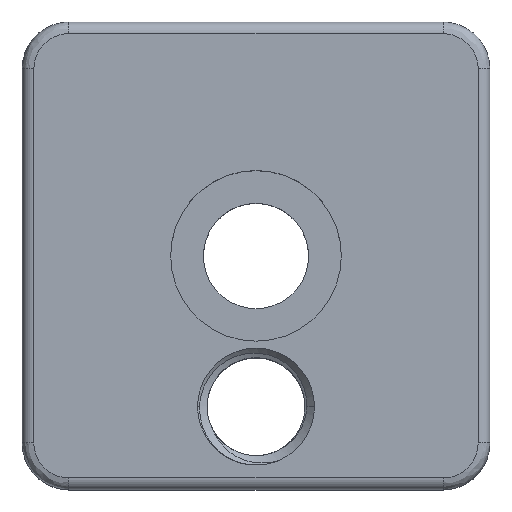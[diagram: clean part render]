
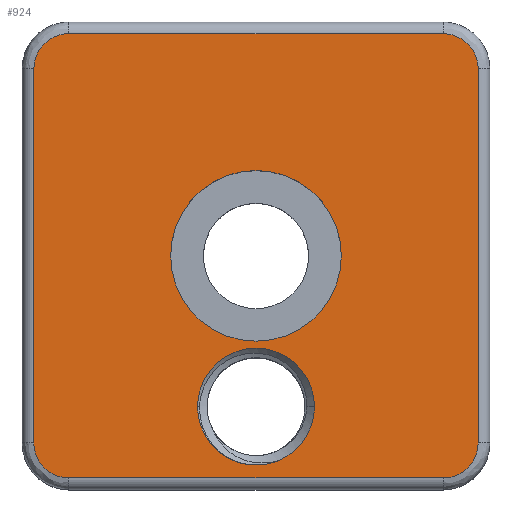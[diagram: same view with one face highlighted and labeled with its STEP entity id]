
A CAD part, top view. The second image highlights one B-rep face of the part: STEP entity #924.
In plain terms, the highlighted planar face has unit normal (0, 0, 1).
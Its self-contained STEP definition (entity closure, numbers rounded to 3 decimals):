
#39 = CIRCLE ( 'NONE', #3381, 7.3 ) ;
#47 = EDGE_CURVE ( 'NONE', #1269, #1821, #188, .T. ) ;
#61 = DIRECTION ( 'NONE',  ( 0., -1., 0. ) ) ;
#188 =( BOUNDED_CURVE ( )  B_SPLINE_CURVE ( 3, ( #5178, #1990, #3811, #5583 ),
 .UNSPECIFIED., .F., .T. ) 
 B_SPLINE_CURVE_WITH_KNOTS ( ( 4, 4 ),
 ( 0., 1. ),
 .UNSPECIFIED. ) 
 CURVE ( )  GEOMETRIC_REPRESENTATION_ITEM ( )  RATIONAL_B_SPLINE_CURVE ( ( 1., 0.805, 0.805, 1. ) ) 
 REPRESENTATION_ITEM ( '' )  );
#358 = CARTESIAN_POINT ( 'NONE',  ( -19., -16., 16. ) ) ;
#405 = EDGE_LOOP ( 'NONE', ( #4817, #3787 ) ) ;
#411 = CARTESIAN_POINT ( 'NONE',  ( 19., -16., 16. ) ) ;
#448 = FACE_BOUND ( 'NONE', #405, .T. ) ;
#454 = CARTESIAN_POINT ( 'NONE',  ( -19., -16., 16. ) ) ;
#468 = CARTESIAN_POINT ( 'NONE',  ( 0., -12.9, 16. ) ) ;
#470 = DIRECTION ( 'NONE',  ( 0., 1., 0. ) ) ;
#473 = CARTESIAN_POINT ( 'NONE',  ( -19., 16., 16. ) ) ;
#480 = CARTESIAN_POINT ( 'NONE',  ( 19., 16., 16. ) ) ;
#510 = CARTESIAN_POINT ( 'NONE',  ( -16., -19., 16. ) ) ;
#554 = EDGE_CURVE ( 'NONE', #1821, #5062, #3673, .T. ) ;
#555 = VERTEX_POINT ( 'NONE', #473 ) ;
#580 = VERTEX_POINT ( 'NONE', #5539 ) ;
#710 = ORIENTED_EDGE ( 'NONE', *, *, #47, .F. ) ;
#730 = CARTESIAN_POINT ( 'NONE',  ( 0., 0., 16. ) ) ;
#804 = LINE ( 'NONE', #358, #1673 ) ;
#924 = ADVANCED_FACE ( 'NONE', ( #4601, #448, #2207 ), #5362, .T. ) ;
#949 = CARTESIAN_POINT ( 'NONE',  ( -17.757, 19., 16. ) ) ;
#1030 = CARTESIAN_POINT ( 'NONE',  ( 16., -19., 16. ) ) ;
#1122 = DIRECTION ( 'NONE',  ( 0., 0., -1. ) ) ;
#1140 =( BOUNDED_CURVE ( )  B_SPLINE_CURVE ( 3, ( #510, #5022, #4148, #454 ),
 .UNSPECIFIED., .F., .F. ) 
 B_SPLINE_CURVE_WITH_KNOTS ( ( 4, 4 ),
 ( 0., 1. ),
 .UNSPECIFIED. ) 
 CURVE ( )  GEOMETRIC_REPRESENTATION_ITEM ( )  RATIONAL_B_SPLINE_CURVE ( ( 1., 0.805, 0.805, 1. ) ) 
 REPRESENTATION_ITEM ( '' )  );
#1269 = VERTEX_POINT ( 'NONE', #2676 ) ;
#1338 = VERTEX_POINT ( 'NONE', #2275 ) ;
#1358 = ORIENTED_EDGE ( 'NONE', *, *, #3946, .F. ) ;
#1436 = DIRECTION ( 'NONE',  ( 0., 0., -1. ) ) ;
#1495 = ORIENTED_EDGE ( 'NONE', *, *, #3260, .F. ) ;
#1519 =( BOUNDED_CURVE ( )  B_SPLINE_CURVE ( 3, ( #5004, #5529, #949, #2853 ),
 .UNSPECIFIED., .F., .T. ) 
 B_SPLINE_CURVE_WITH_KNOTS ( ( 4, 4 ),
 ( 0., 1. ),
 .UNSPECIFIED. ) 
 CURVE ( )  GEOMETRIC_REPRESENTATION_ITEM ( )  RATIONAL_B_SPLINE_CURVE ( ( 1., 0.805, 0.805, 1. ) ) 
 REPRESENTATION_ITEM ( '' )  );
#1522 = EDGE_LOOP ( 'NONE', ( #1882, #4668, #4805 ) ) ;
#1629 = CARTESIAN_POINT ( 'NONE',  ( 16., -19., 16. ) ) ;
#1673 = VECTOR ( 'NONE', #470, 1000. ) ;
#1732 = VERTEX_POINT ( 'NONE', #5809 ) ;
#1744 = EDGE_CURVE ( 'NONE', #4348, #2167, #1140, .T. ) ;
#1804 = DIRECTION ( 'NONE',  ( -1., 0., 0. ) ) ;
#1821 = VERTEX_POINT ( 'NONE', #480 ) ;
#1830 = CARTESIAN_POINT ( 'NONE',  ( 17.5, -16., 16. ) ) ;
#1858 = AXIS2_PLACEMENT_3D ( 'NONE', #468, #1436, #3211 ) ;
#1882 = ORIENTED_EDGE ( 'NONE', *, *, #5588, .T. ) ;
#1964 = CARTESIAN_POINT ( 'NONE',  ( 7.3, 0., 16. ) ) ;
#1990 = CARTESIAN_POINT ( 'NONE',  ( 17.757, 19., 16. ) ) ;
#2010 = EDGE_CURVE ( 'NONE', #555, #1732, #1519, .T. ) ;
#2084 = AXIS2_PLACEMENT_3D ( 'NONE', #5171, #1122, #5110 ) ;
#2167 = VERTEX_POINT ( 'NONE', #5538 ) ;
#2207 = FACE_BOUND ( 'NONE', #1522, .T. ) ;
#2275 = CARTESIAN_POINT ( 'NONE',  ( -7.3, 0., 16. ) ) ;
#2319 = AXIS2_PLACEMENT_3D ( 'NONE', #5834, #4845, #3949 ) ;
#2329 = DIRECTION ( 'NONE',  ( -1., 0., 0. ) ) ;
#2676 = CARTESIAN_POINT ( 'NONE',  ( 16., 19., 16. ) ) ;
#2754 = CARTESIAN_POINT ( 'NONE',  ( -2.005, -17.48, 16. ) ) ;
#2795 = VERTEX_POINT ( 'NONE', #1964 ) ;
#2853 = CARTESIAN_POINT ( 'NONE',  ( -16., 19., 16. ) ) ;
#3067 = CARTESIAN_POINT ( 'NONE',  ( 19., -17.757, 16. ) ) ;
#3093 = ORIENTED_EDGE ( 'NONE', *, *, #5015, .F. ) ;
#3096 = CARTESIAN_POINT ( 'NONE',  ( 17.757, -19., 16. ) ) ;
#3211 = DIRECTION ( 'NONE',  ( 1., 0., 0. ) ) ;
#3217 = CARTESIAN_POINT ( 'NONE',  ( 19., 16., 16. ) ) ;
#3260 = EDGE_CURVE ( 'NONE', #3338, #4348, #3385, .T. ) ;
#3309 = ORIENTED_EDGE ( 'NONE', *, *, #2010, .F. ) ;
#3338 = VERTEX_POINT ( 'NONE', #1629 ) ;
#3363 = DIRECTION ( 'NONE',  ( 0., 0., -1. ) ) ;
#3381 = AXIS2_PLACEMENT_3D ( 'NONE', #730, #4059, #1804 ) ;
#3385 = LINE ( 'NONE', #1030, #5423 ) ;
#3593 = EDGE_CURVE ( 'NONE', #580, #4649, #4400, .T. ) ;
#3673 = LINE ( 'NONE', #3217, #4616 ) ;
#3692 = AXIS2_PLACEMENT_3D ( 'NONE', #1830, #3707, #5390 ) ;
#3707 = DIRECTION ( 'NONE',  ( 0., 0., 1. ) ) ;
#3735 = CARTESIAN_POINT ( 'NONE',  ( -5., -12.9, 16. ) ) ;
#3787 = ORIENTED_EDGE ( 'NONE', *, *, #4545, .T. ) ;
#3811 = CARTESIAN_POINT ( 'NONE',  ( 19., 17.757, 16. ) ) ;
#3946 = EDGE_CURVE ( 'NONE', #5062, #3338, #4538, .T. ) ;
#3949 = DIRECTION ( 'NONE',  ( -1., 0., 0. ) ) ;
#4059 = DIRECTION ( 'NONE',  ( 0., 0., -1. ) ) ;
#4148 = CARTESIAN_POINT ( 'NONE',  ( -19., -17.757, 16. ) ) ;
#4226 = VECTOR ( 'NONE', #5385, 1000. ) ;
#4245 = EDGE_LOOP ( 'NONE', ( #1495, #1358, #5498, #710, #3093, #3309, #5535, #5751 ) ) ;
#4260 = CIRCLE ( 'NONE', #2084, 5. ) ;
#4298 = EDGE_CURVE ( 'NONE', #5211, #580, #4679, .T. ) ;
#4348 = VERTEX_POINT ( 'NONE', #5727 ) ;
#4400 = CIRCLE ( 'NONE', #5337, 5. ) ;
#4472 = EDGE_CURVE ( 'NONE', #1338, #2795, #39, .T. ) ;
#4475 = LINE ( 'NONE', #5796, #4226 ) ;
#4500 = CARTESIAN_POINT ( 'NONE',  ( 19., -16., 16. ) ) ;
#4538 =( BOUNDED_CURVE ( )  B_SPLINE_CURVE ( 3, ( #4500, #3067, #3096, #5299 ),
 .UNSPECIFIED., .F., .T. ) 
 B_SPLINE_CURVE_WITH_KNOTS ( ( 4, 4 ),
 ( 0., 1. ),
 .UNSPECIFIED. ) 
 CURVE ( )  GEOMETRIC_REPRESENTATION_ITEM ( )  RATIONAL_B_SPLINE_CURVE ( ( 1., 0.805, 0.805, 1. ) ) 
 REPRESENTATION_ITEM ( '' )  );
#4545 = EDGE_CURVE ( 'NONE', #2795, #1338, #4871, .T. ) ;
#4601 = FACE_OUTER_BOUND ( 'NONE', #4245, .T. ) ;
#4616 = VECTOR ( 'NONE', #61, 1000. ) ;
#4649 = VERTEX_POINT ( 'NONE', #2754 ) ;
#4668 = ORIENTED_EDGE ( 'NONE', *, *, #4298, .T. ) ;
#4674 = CARTESIAN_POINT ( 'NONE',  ( 0., -12.9, 16. ) ) ;
#4679 = CIRCLE ( 'NONE', #1858, 5. ) ;
#4805 = ORIENTED_EDGE ( 'NONE', *, *, #3593, .T. ) ;
#4817 = ORIENTED_EDGE ( 'NONE', *, *, #4472, .T. ) ;
#4845 = DIRECTION ( 'NONE',  ( 0., 0., -1. ) ) ;
#4871 = CIRCLE ( 'NONE', #2319, 7.3 ) ;
#5004 = CARTESIAN_POINT ( 'NONE',  ( -19., 16., 16. ) ) ;
#5015 = EDGE_CURVE ( 'NONE', #1732, #1269, #4475, .T. ) ;
#5022 = CARTESIAN_POINT ( 'NONE',  ( -17.757, -19., 16. ) ) ;
#5062 = VERTEX_POINT ( 'NONE', #411 ) ;
#5064 = DIRECTION ( 'NONE',  ( 1., 0., 0. ) ) ;
#5110 = DIRECTION ( 'NONE',  ( 1., 0., 0. ) ) ;
#5132 = EDGE_CURVE ( 'NONE', #2167, #555, #804, .T. ) ;
#5171 = CARTESIAN_POINT ( 'NONE',  ( 0., -12.9, 16. ) ) ;
#5178 = CARTESIAN_POINT ( 'NONE',  ( 16., 19., 16. ) ) ;
#5211 = VERTEX_POINT ( 'NONE', #3735 ) ;
#5299 = CARTESIAN_POINT ( 'NONE',  ( 16., -19., 16. ) ) ;
#5337 = AXIS2_PLACEMENT_3D ( 'NONE', #4674, #3363, #5064 ) ;
#5362 = PLANE ( 'NONE',  #3692 ) ;
#5385 = DIRECTION ( 'NONE',  ( 1., 0., 0. ) ) ;
#5390 = DIRECTION ( 'NONE',  ( 1., 0., 0. ) ) ;
#5423 = VECTOR ( 'NONE', #2329, 1000. ) ;
#5498 = ORIENTED_EDGE ( 'NONE', *, *, #554, .F. ) ;
#5529 = CARTESIAN_POINT ( 'NONE',  ( -19., 17.757, 16. ) ) ;
#5535 = ORIENTED_EDGE ( 'NONE', *, *, #5132, .F. ) ;
#5538 = CARTESIAN_POINT ( 'NONE',  ( -19., -16., 16. ) ) ;
#5539 = CARTESIAN_POINT ( 'NONE',  ( 5., -12.9, 16. ) ) ;
#5583 = CARTESIAN_POINT ( 'NONE',  ( 19., 16., 16. ) ) ;
#5588 = EDGE_CURVE ( 'NONE', #4649, #5211, #4260, .T. ) ;
#5727 = CARTESIAN_POINT ( 'NONE',  ( -16., -19., 16. ) ) ;
#5751 = ORIENTED_EDGE ( 'NONE', *, *, #1744, .F. ) ;
#5796 = CARTESIAN_POINT ( 'NONE',  ( -16., 19., 16. ) ) ;
#5809 = CARTESIAN_POINT ( 'NONE',  ( -16., 19., 16. ) ) ;
#5834 = CARTESIAN_POINT ( 'NONE',  ( 0., 0., 16. ) ) ;
